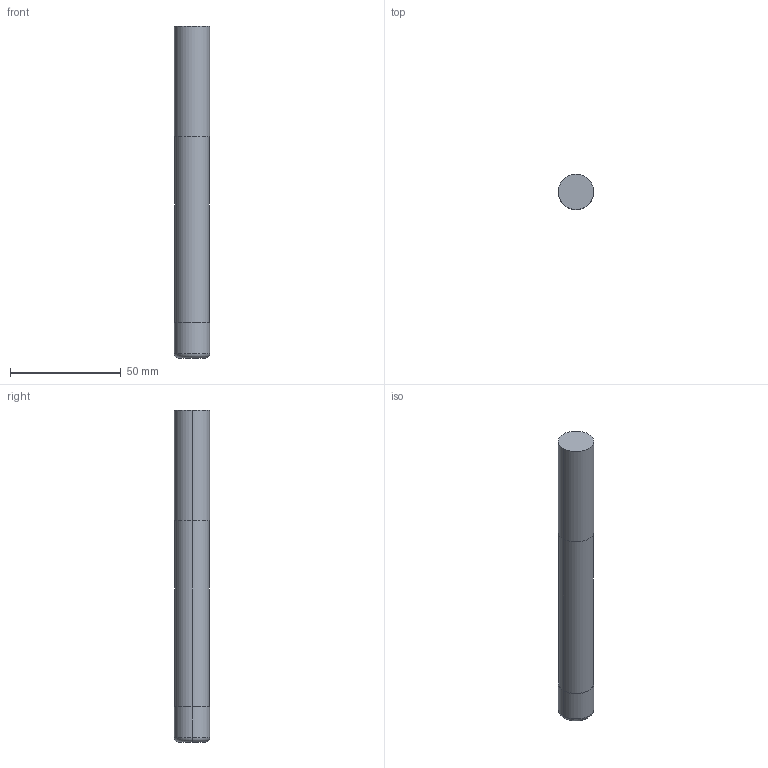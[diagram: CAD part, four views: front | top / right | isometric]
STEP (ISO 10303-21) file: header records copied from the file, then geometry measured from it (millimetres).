
FILE_DESCRIPTION(('STEP AP214'),'1');
FILE_NAME('cctmp_B64D5651-E1EB-478F-A3AE-176C3EF367DA_2020_10_01_07_18_21_0349..stp','2020-10-01T05:18:21',('Meusburger Georg GmbH & Co KG'),('CADClick - www.CADClick.com'),'Spatial InterOp 3D',' ','unknown authorization');
FILE_SCHEMA(('AUTOMOTIVE_DESIGN { 1 0 10303 214 1 1 1 1 }'));
Length unit declared in the file: millimetre
Products named in the file (1): WZF17428_16_2
Bounding box: 16 x 16 x 150 mm (x, y, z)
Volume: 29079.5 mm3; surface area: 7789.8 mm2
Topology: 1 solids, 1 shells, 12 faces, 22 edges, 14 vertices
Faces by surface type: cylinder 6, plane 4, torus 2
Entity records: 426 total; most frequent: DIRECTION 64, CARTESIAN_POINT 49, ORIENTED_EDGE 44, AXIS2_PLACEMENT_3D 29, EDGE_CURVE 22, CIRCLE 16, EDGE_LOOP 14, VERTEX_POINT 14
